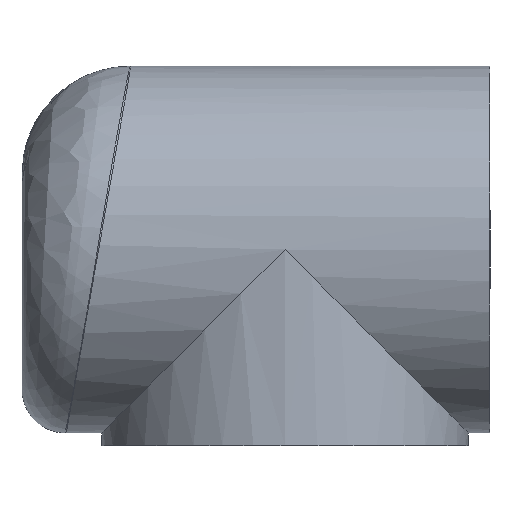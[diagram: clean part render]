
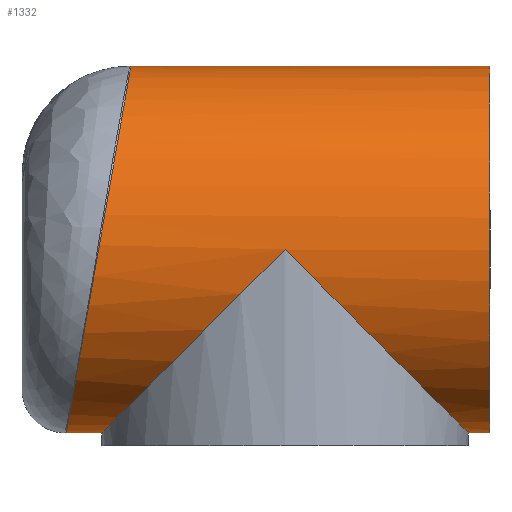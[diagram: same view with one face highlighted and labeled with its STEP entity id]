
A CAD part, left-side view. The second image highlights one B-rep face of the part: STEP entity #1332.
In plain terms, the highlighted cylindrical face has radius 42.5 mm (diameter 85 mm), a partial arc.
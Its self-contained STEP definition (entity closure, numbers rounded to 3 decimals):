
#74 = DIRECTION ( 'NONE',  ( 0., 1., 0. ) ) ;
#85 = DIRECTION ( 'NONE',  ( 0., -1., 0. ) ) ;
#98 = CYLINDRICAL_SURFACE ( 'NONE', #350, 42.5 ) ;
#99 = VERTEX_POINT ( 'NONE', #545 ) ;
#143 = CARTESIAN_POINT ( 'NONE',  ( 0.25, -47.5, -10.85 ) ) ;
#157 = CARTESIAN_POINT ( 'NONE',  ( -42.25, 0., -10.85 ) ) ;
#161 = VECTOR ( 'NONE', #368, 1000. ) ;
#240 = CARTESIAN_POINT ( 'NONE',  ( 0.25, 35.736, 31.65 ) ) ;
#298 = CARTESIAN_POINT ( 'NONE',  ( 0.25, 50.724, -53.35 ) ) ;
#307 = CARTESIAN_POINT ( 'NONE',  ( 0.25, 35.736, 31.65 ) ) ;
#310 = VECTOR ( 'NONE', #1082, 1000. ) ;
#350 = AXIS2_PLACEMENT_3D ( 'NONE', #521, #85, #1041 ) ;
#352 = CARTESIAN_POINT ( 'NONE',  ( 0.25, 61., 31.65 ) ) ;
#368 = DIRECTION ( 'NONE',  ( 0., -1., 0. ) ) ;
#410 = CARTESIAN_POINT ( 'NONE',  ( 0.25, 61., -53.35 ) ) ;
#416 = VERTEX_POINT ( 'NONE', #1002 ) ;
#420 = EDGE_CURVE ( 'NONE', #686, #1339, #591, .T. ) ;
#431 = CARTESIAN_POINT ( 'NONE',  ( 0.25, 50.724, -53.35 ) ) ;
#435 = LINE ( 'NONE', #657, #310 ) ;
#457 = ORIENTED_EDGE ( 'NONE', *, *, #927, .F. ) ;
#471 = ORIENTED_EDGE ( 'NONE', *, *, #1216, .T. ) ;
#474 = CARTESIAN_POINT ( 'NONE',  ( 0.25, -47.5, -53.35 ) ) ;
#477 = CARTESIAN_POINT ( 'NONE',  ( 0.25, 42.5, -53.35 ) ) ;
#521 = CARTESIAN_POINT ( 'NONE',  ( 0.25, 61., -10.85 ) ) ;
#526 = CARTESIAN_POINT ( 'NONE',  ( -84.75, 50.724, -53.35 ) ) ;
#543 = LINE ( 'NONE', #410, #918 ) ;
#545 = CARTESIAN_POINT ( 'NONE',  ( 0.25, -42.5, -53.35 ) ) ;
#570 = LINE ( 'NONE', #352, #161 ) ;
#576 = VERTEX_POINT ( 'NONE', #431 ) ;
#591 =( BOUNDED_CURVE ( )  B_SPLINE_CURVE ( 3, ( #715, #689, #1329, #477 ),
 .UNSPECIFIED., .F., .T. ) 
 B_SPLINE_CURVE_WITH_KNOTS ( ( 4, 4 ),
 ( 4.712, 6.283 ),
 .UNSPECIFIED. ) 
 CURVE ( )  GEOMETRIC_REPRESENTATION_ITEM ( )  RATIONAL_B_SPLINE_CURVE ( ( 1., 0.805, 0.805, 1. ) ) 
 REPRESENTATION_ITEM ( '' )  );
#634 = CARTESIAN_POINT ( 'NONE',  ( -24.646, -42.5, -53.35 ) ) ;
#636 = CARTESIAN_POINT ( 'NONE',  ( 0.25, 42.5, -53.35 ) ) ;
#640 = CARTESIAN_POINT ( 'NONE',  ( -42.25, 0., -10.85 ) ) ;
#657 = CARTESIAN_POINT ( 'NONE',  ( 0.25, 61., -53.35 ) ) ;
#686 = VERTEX_POINT ( 'NONE', #157 ) ;
#689 = CARTESIAN_POINT ( 'NONE',  ( -42.25, 24.896, -35.746 ) ) ;
#690 = ORIENTED_EDGE ( 'NONE', *, *, #884, .T. ) ;
#701 = VERTEX_POINT ( 'NONE', #474 ) ;
#715 = CARTESIAN_POINT ( 'NONE',  ( -42.25, 0., -10.85 ) ) ;
#732 = CARTESIAN_POINT ( 'NONE',  ( -84.75, 35.736, 31.65 ) ) ;
#832 = ORIENTED_EDGE ( 'NONE', *, *, #1070, .F. ) ;
#848 = CARTESIAN_POINT ( 'NONE',  ( 0.25, -42.5, -53.35 ) ) ;
#876 = AXIS2_PLACEMENT_3D ( 'NONE', #143, #74, #880 ) ;
#880 = DIRECTION ( 'NONE',  ( 0., 0., -1. ) ) ;
#882 = VERTEX_POINT ( 'NONE', #240 ) ;
#884 = EDGE_CURVE ( 'NONE', #701, #416, #1305, .T. ) ;
#918 = VECTOR ( 'NONE', #1300, 1000. ) ;
#927 = EDGE_CURVE ( 'NONE', #882, #416, #570, .T. ) ;
#1002 = CARTESIAN_POINT ( 'NONE',  ( 0.25, -47.5, 31.65 ) ) ;
#1018 = EDGE_CURVE ( 'NONE', #576, #882, #1024, .T. ) ;
#1024 =( BOUNDED_CURVE ( )  B_SPLINE_CURVE ( 3, ( #298, #526, #732, #307 ),
 .UNSPECIFIED., .F., .T. ) 
 B_SPLINE_CURVE_WITH_KNOTS ( ( 4, 4 ),
 ( 3.142, 6.283 ),
 .UNSPECIFIED. ) 
 CURVE ( )  GEOMETRIC_REPRESENTATION_ITEM ( )  RATIONAL_B_SPLINE_CURVE ( ( 1., 0.333, 0.333, 1. ) ) 
 REPRESENTATION_ITEM ( '' )  );
#1036 =( BOUNDED_CURVE ( )  B_SPLINE_CURVE ( 3, ( #848, #634, #1284, #640 ),
 .UNSPECIFIED., .F., .F. ) 
 B_SPLINE_CURVE_WITH_KNOTS ( ( 4, 4 ),
 ( 0., 1.571 ),
 .UNSPECIFIED. ) 
 CURVE ( )  GEOMETRIC_REPRESENTATION_ITEM ( )  RATIONAL_B_SPLINE_CURVE ( ( 1., 0.805, 0.805, 1. ) ) 
 REPRESENTATION_ITEM ( '' )  );
#1041 = DIRECTION ( 'NONE',  ( 0., 0., 1. ) ) ;
#1063 = ORIENTED_EDGE ( 'NONE', *, *, #1018, .F. ) ;
#1070 = EDGE_CURVE ( 'NONE', #99, #686, #1036, .T. ) ;
#1082 = DIRECTION ( 'NONE',  ( 0., -1., 0. ) ) ;
#1122 = ORIENTED_EDGE ( 'NONE', *, *, #1241, .T. ) ;
#1208 = FACE_OUTER_BOUND ( 'NONE', #1397, .T. ) ;
#1216 = EDGE_CURVE ( 'NONE', #99, #701, #543, .T. ) ;
#1241 = EDGE_CURVE ( 'NONE', #576, #1339, #435, .T. ) ;
#1284 = CARTESIAN_POINT ( 'NONE',  ( -42.25, -24.896, -35.746 ) ) ;
#1300 = DIRECTION ( 'NONE',  ( 0., -1., 0. ) ) ;
#1305 = CIRCLE ( 'NONE', #876, 42.5 ) ;
#1329 = CARTESIAN_POINT ( 'NONE',  ( -24.646, 42.5, -53.35 ) ) ;
#1332 = ADVANCED_FACE ( 'NONE', ( #1208 ), #98, .T. ) ;
#1339 = VERTEX_POINT ( 'NONE', #636 ) ;
#1380 = ORIENTED_EDGE ( 'NONE', *, *, #420, .F. ) ;
#1397 = EDGE_LOOP ( 'NONE', ( #1063, #1122, #1380, #832, #471, #690, #457 ) ) ;
